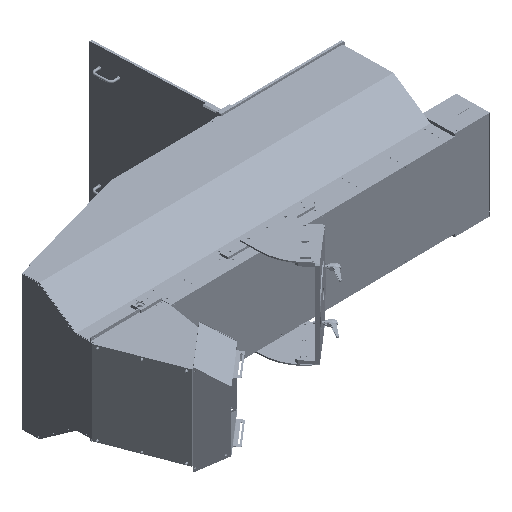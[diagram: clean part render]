
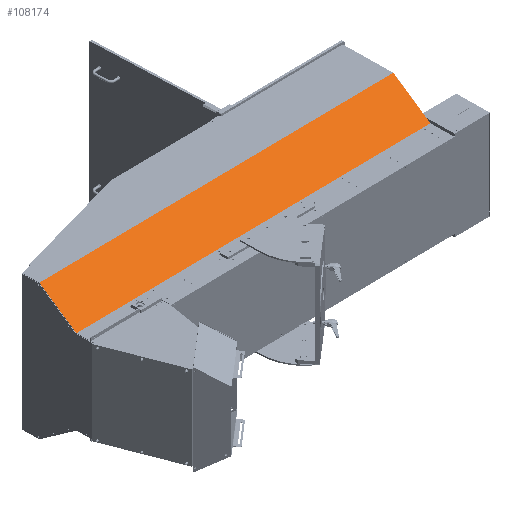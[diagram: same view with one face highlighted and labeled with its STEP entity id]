
A CAD part, isometric view. The second image highlights one B-rep face of the part: STEP entity #108174.
In plain terms, the highlighted planar face has unit normal (0.008, -0.574, 0.819).
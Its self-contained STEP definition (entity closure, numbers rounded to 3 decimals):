
#1651 = AXIS2_PLACEMENT_3D ( 'NONE', #164350, #120715, #275619 ) ;
#2093 = CARTESIAN_POINT ( 'NONE',  ( -158.451, 32.983, 936.1 ) ) ;
#41950 = EDGE_CURVE ( 'NONE', #220765, #116126, #232339, .T. ) ;
#60588 = VECTOR ( 'NONE', #72978, 1000. ) ;
#72978 = DIRECTION ( 'NONE',  ( -0.011, 0.819, 0.574 ) ) ;
#84998 = EDGE_CURVE ( 'NONE', #220632, #220765, #233628, .T. ) ;
#93639 = DIRECTION ( 'NONE',  ( 0.011, -0.819, -0.574 ) ) ;
#95597 = CARTESIAN_POINT ( 'NONE',  ( 1558.999, 232.042, 1059.1 ) ) ;
#103785 = VECTOR ( 'NONE', #163047, 1000. ) ;
#107290 = ORIENTED_EDGE ( 'NONE', *, *, #41950, .T. ) ;
#108174 = ADVANCED_FACE ( 'NONE', ( #117760 ), #138836, .T. ) ;
#116126 = VERTEX_POINT ( 'NONE', #116590 ) ;
#116590 = CARTESIAN_POINT ( 'NONE',  ( 1558.999, 232.042, 1059.1 ) ) ;
#116917 = DIRECTION ( 'NONE',  ( 1., 0.014, 0. ) ) ;
#117760 = FACE_OUTER_BOUND ( 'NONE', #257615, .T. ) ;
#120715 = DIRECTION ( 'NONE',  ( 0.008, -0.574, 0.819 ) ) ;
#125892 = CARTESIAN_POINT ( 'NONE',  ( -160.842, 208.629, 1059.1 ) ) ;
#136887 = ORIENTED_EDGE ( 'NONE', *, *, #84998, .T. ) ;
#138836 = PLANE ( 'NONE',  #1651 ) ;
#143177 = LINE ( 'NONE', #162805, #207325 ) ;
#162805 = CARTESIAN_POINT ( 'NONE',  ( -160.842, 208.629, 1059.1 ) ) ;
#163047 = DIRECTION ( 'NONE',  ( 1., 0.014, 0. ) ) ;
#164350 = CARTESIAN_POINT ( 'NONE',  ( -159.646, 120.806, 997.6 ) ) ;
#173633 = ORIENTED_EDGE ( 'NONE', *, *, #271566, .T. ) ;
#196081 = ORIENTED_EDGE ( 'NONE', *, *, #199202, .F. ) ;
#199202 = EDGE_CURVE ( 'NONE', #251281, #116126, #277771, .T. ) ;
#207325 = VECTOR ( 'NONE', #93639, 1000. ) ;
#220632 = VERTEX_POINT ( 'NONE', #260973 ) ;
#220765 = VERTEX_POINT ( 'NONE', #265420 ) ;
#231106 = CARTESIAN_POINT ( 'NONE',  ( -160.842, 208.629, 1059.1 ) ) ;
#232339 = LINE ( 'NONE', #95597, #60588 ) ;
#233628 = LINE ( 'NONE', #2093, #103785 ) ;
#251281 = VERTEX_POINT ( 'NONE', #125892 ) ;
#257615 = EDGE_LOOP ( 'NONE', ( #107290, #196081, #173633, #136887 ) ) ;
#260973 = CARTESIAN_POINT ( 'NONE',  ( -158.451, 32.983, 936.1 ) ) ;
#265420 = CARTESIAN_POINT ( 'NONE',  ( 1561.39, 56.396, 936.1 ) ) ;
#271566 = EDGE_CURVE ( 'NONE', #251281, #220632, #143177, .T. ) ;
#275619 = DIRECTION ( 'NONE',  ( -1., -0.014, 0. ) ) ;
#277771 = LINE ( 'NONE', #231106, #283870 ) ;
#283870 = VECTOR ( 'NONE', #116917, 1000. ) ;
